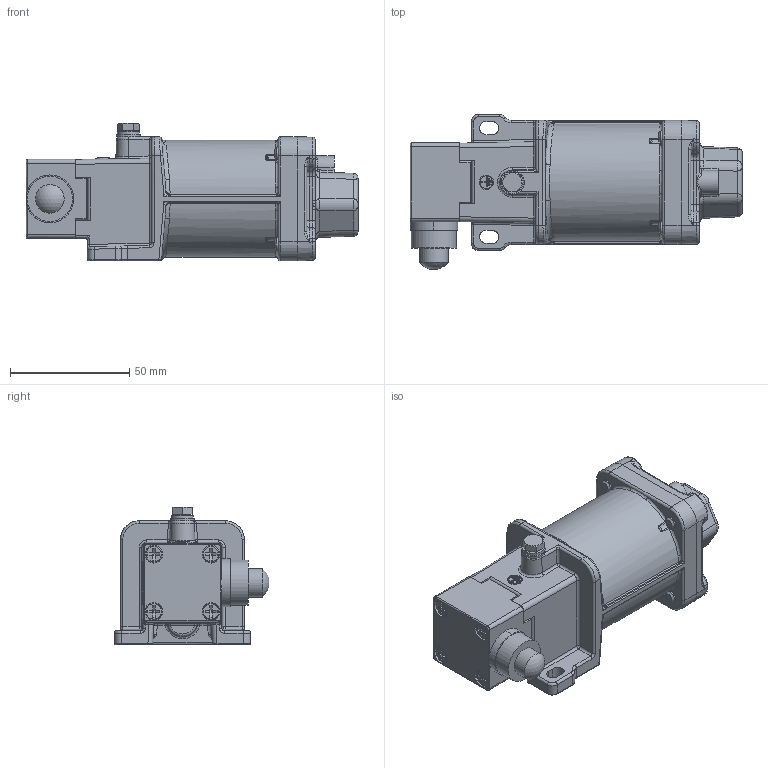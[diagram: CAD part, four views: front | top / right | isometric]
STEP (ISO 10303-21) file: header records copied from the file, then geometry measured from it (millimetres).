
FILE_DESCRIPTION((''),'2;1');
FILE_NAME('C:\Users\L.A.Ronzhin\Desktop\Публикации\ДВГ-КВ-Е21.stp','2020-10-26T13:12:15',('L.A.Ronzhin'),(''),'Autodesk Inventor 2012','Autodesk Inventor 2012','');
FILE_SCHEMA(('AUTOMOTIVE_DESIGN { 1 0 10303 214 1 1 1 1 }'));
Length unit declared in the file: millimetre
Products named in the file (1): ДВГ-КВ-Е21К1
Bounding box: 139.15 x 65 x 57.7 mm (x, y, z)
Volume: 213285.5 mm3; surface area: 34715.6 mm2
Topology: 1 solids, 1 shells, 917 faces, 2149 edges, 1221 vertices
Faces by surface type: plane 295, cylinder 270, bspline 235, torus 82, cone 20, sphere 15
Full cylindrical faces by diameter (mm): 4.567 x1, 4.988 x4, 5.3 x1, 5.4 x1, 6 x1, 6.7 x1, 8.5 x4, 9.5 x4, 10 x1, 12 x1, 18.4 x1, 19 x1, 28.5 x1
Entity records: 40484 total; most frequent: CARTESIAN_POINT 20531, ORIENTED_EDGE 4104, DIRECTION 3731, EDGE_CURVE 2052, AXIS2_PLACEMENT_3D 1450, VERTEX_POINT 1208, EDGE_LOOP 1002, FACE_OUTER_BOUND 917
